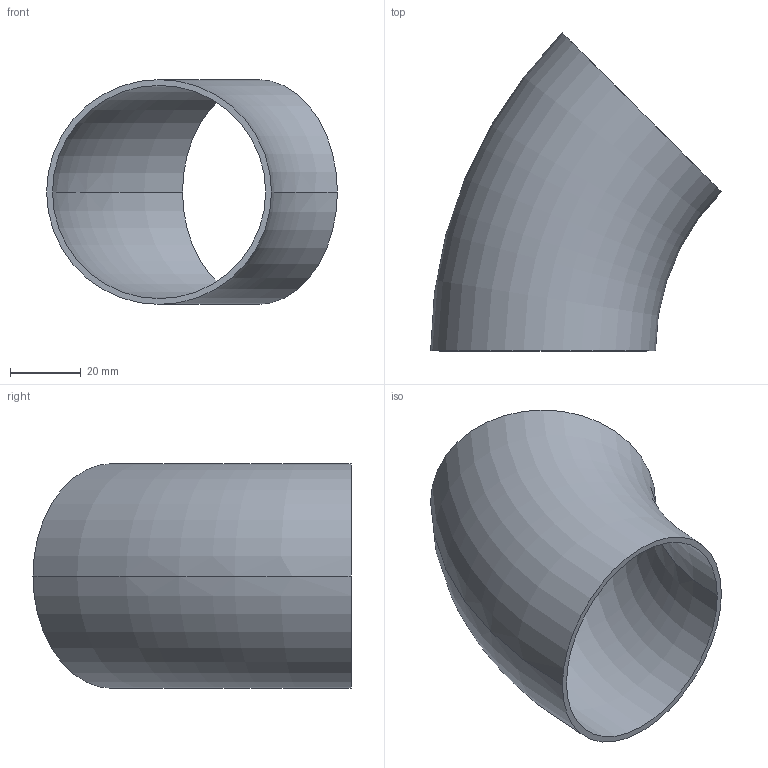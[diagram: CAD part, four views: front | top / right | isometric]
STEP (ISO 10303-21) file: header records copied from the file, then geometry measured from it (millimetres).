
FILE_DESCRIPTION (( 'STEP AP203' ), '1' );
FILE_NAME ('E2WK2.5.STEP', '2018-04-30T18:09:50', ( 'vneprd' ), ( 'Microsoft' ), 'SwSTEP 2.0', 'SolidWorks 2014', '' );
FILE_SCHEMA (( 'CONFIG_CONTROL_DESIGN' ));
Length unit declared in the file: inch
Products named in the file (1): E2WK2.5
Bounding box: 82.1 x 89.8 x 63.5 mm (x, y, z)
Volume: 23998.5 mm3; surface area: 29713.1 mm2
Topology: 1 solids, 1 shells, 6 faces, 12 edges, 8 vertices
Faces by surface type: torus 4, plane 2
Entity records: 251 total; most frequent: DIRECTION 38, CARTESIAN_POINT 27, ORIENTED_EDGE 24, AXIS2_PLACEMENT_3D 19, CIRCLE 12, EDGE_CURVE 12, EDGE_LOOP 8, VERTEX_POINT 8
